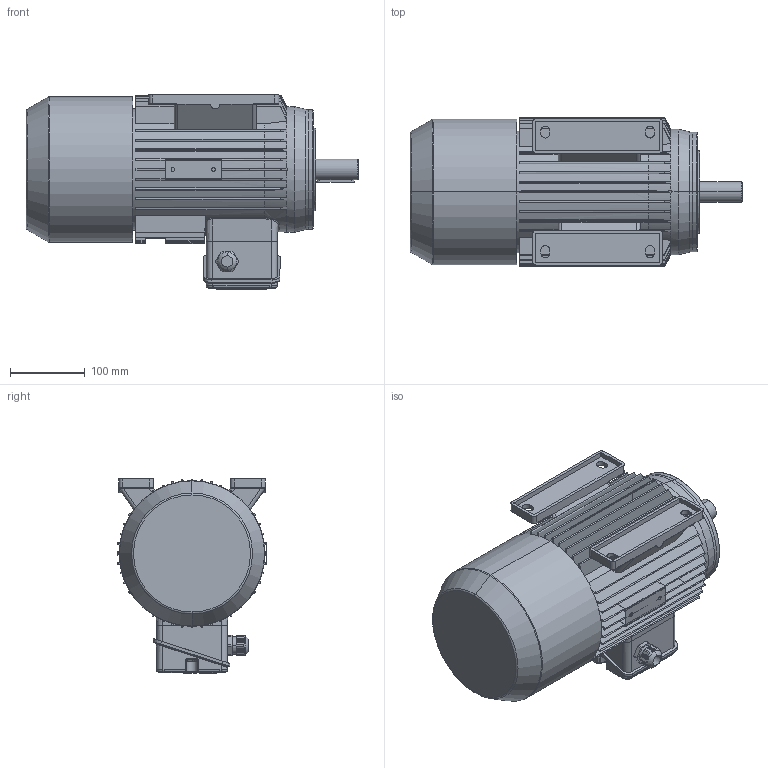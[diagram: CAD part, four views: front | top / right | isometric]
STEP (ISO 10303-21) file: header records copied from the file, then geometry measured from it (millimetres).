
FILE_DESCRIPTION (( 'STEP AP214' ), '1' );
FILE_NAME ('MAP100L6A IM2141 FT130.STEP', '2021-03-05T12:30:13', ( '' ), ( '' ), 'SwSTEP 2.0', 'SolidWorks 2018', '' );
FILE_SCHEMA (( 'AUTOMOTIVE_DESIGN' ));
Length unit declared in the file: millimetre
Products named in the file (1): MAP100L6A IM2141 FT130
Bounding box: 444 x 200 x 260.25 mm (x, y, z)
Volume: 10534421.3 mm3; surface area: 616263.6 mm2
Topology: 6 solids, 11 shells, 1225 faces, 3155 edges, 1986 vertices
Faces by surface type: plane 633, cylinder 301, bspline 119, cone 109, torus 61, sphere 2
Entity records: 44867 total; most frequent: CARTESIAN_POINT 16316, ORIENTED_EDGE 6286, DIRECTION 5476, EDGE_CURVE 3143, VERTEX_POINT 1986, AXIS2_PLACEMENT_3D 1879, VECTOR 1718, LINE 1718
